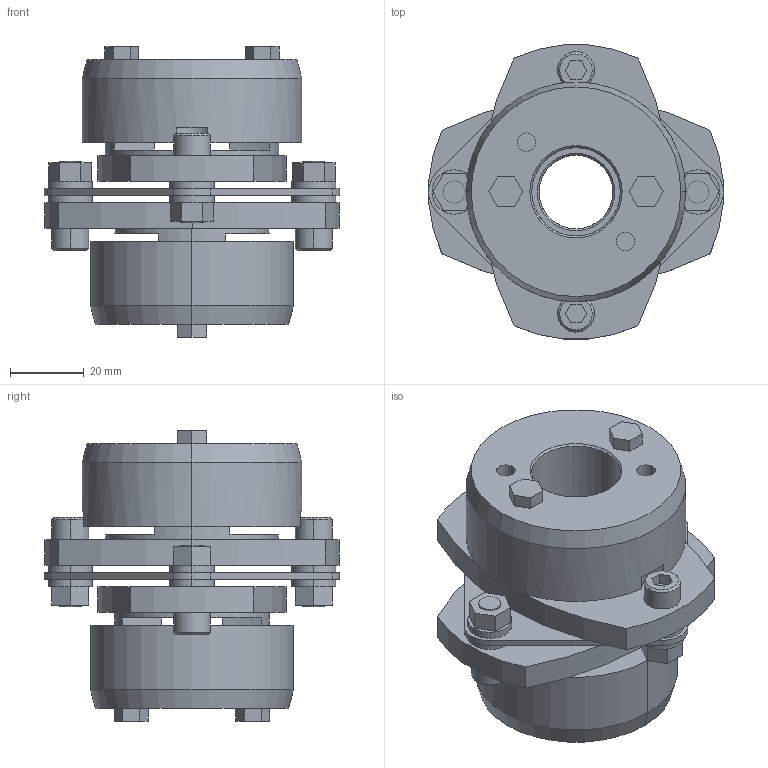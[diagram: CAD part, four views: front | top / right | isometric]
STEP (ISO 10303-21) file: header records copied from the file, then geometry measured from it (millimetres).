
FILE_DESCRIPTION((''),'2;1');
FILE_NAME('LCS-80T7-20×24.stp','2011-09-12T15:21:56',(''),(''),'AutoCAD STEP 2000i','AutoCAD 2000i',', , ');
FILE_SCHEMA(('CONFIG_CONTROL_DESIGN'));
Length unit declared in the file: millimetre
Products named in the file (9): LCS-80T7-19×24; 忣兜1; LC80T7-T024; LC80T7-T022; LC80T7-T019-1; LC80T7-T019; LC80T7-T017-1; LC80T7-T017; LCS80-ITA
Assembly tree (8 placements, depth 2):
  LCS-80T7-19×24
    忣兜1
    LC80T7-T024
    LC80T7-T022
    LC80T7-T019-1
    LC80T7-T019
    LC80T7-T017-1
    LC80T7-T017
    LCS80-ITA
Bounding box: 80 x 79.95 x 78.75 mm (x, y, z)
Volume: 155623.3 mm3; surface area: 43341.3 mm2
Topology: 1 solids, 1 shells, 222 faces, 544 edges, 356 vertices
Faces by surface type: plane 120, cylinder 82, cone 20
Entity records: 6815 total; most frequent: DIRECTION 1210, CARTESIAN_POINT 1131, ORIENTED_EDGE 1088, EDGE_CURVE 544, AXIS2_PLACEMENT_3D 435, VERTEX_POINT 356, VECTOR 340, LINE 340
